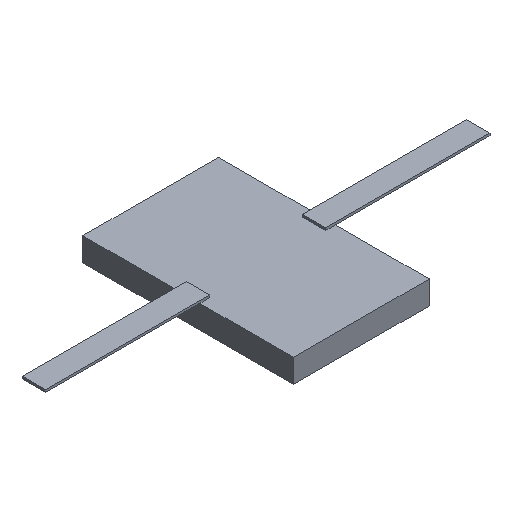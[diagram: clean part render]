
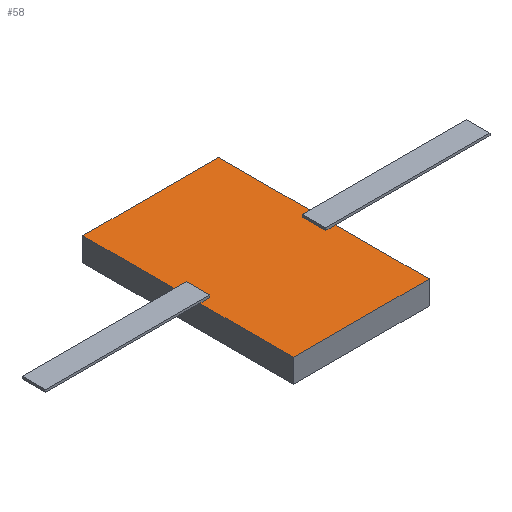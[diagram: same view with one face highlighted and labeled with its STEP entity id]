
A CAD part, isometric view. The second image highlights one B-rep face of the part: STEP entity #58.
In plain terms, the highlighted planar face has unit normal (0, 0, 1).
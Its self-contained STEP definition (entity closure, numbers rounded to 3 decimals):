
#58=ADVANCED_FACE('',(#220),#222,.T.);
#220=FACE_BOUND('',#221,.T.);
#221=EDGE_LOOP('',(#346,#347,#348,#349,#350,#351,#352,#353,#354,#355,#356,#357));
#222=PLANE('',#223);
#223=AXIS2_PLACEMENT_3D('',#224,#225,#226);
#224=CARTESIAN_POINT('',(0.,0.,1.));
#225=DIRECTION('',(0.,0.,1.));
#226=DIRECTION('',(-1.,0.,0.));
#346=ORIENTED_EDGE('',*,*,#434,.F.);
#347=ORIENTED_EDGE('',*,*,#435,.F.);
#348=ORIENTED_EDGE('',*,*,#436,.T.);
#349=ORIENTED_EDGE('',*,*,#437,.T.);
#350=ORIENTED_EDGE('',*,*,#438,.T.);
#351=ORIENTED_EDGE('',*,*,#439,.F.);
#352=ORIENTED_EDGE('',*,*,#440,.F.);
#353=ORIENTED_EDGE('',*,*,#441,.F.);
#354=ORIENTED_EDGE('',*,*,#442,.T.);
#355=ORIENTED_EDGE('',*,*,#443,.T.);
#356=ORIENTED_EDGE('',*,*,#444,.T.);
#357=ORIENTED_EDGE('',*,*,#445,.F.);
#434=EDGE_CURVE('',#478,#479,#480,.T.);
#435=EDGE_CURVE('',#481,#478,#482,.T.);
#436=EDGE_CURVE('',#481,#483,#484,.T.);
#437=EDGE_CURVE('',#483,#485,#486,.T.);
#438=EDGE_CURVE('',#485,#487,#488,.T.);
#439=EDGE_CURVE('',#489,#487,#490,.T.);
#440=EDGE_CURVE('',#491,#489,#492,.T.);
#441=EDGE_CURVE('',#493,#491,#494,.T.);
#442=EDGE_CURVE('',#493,#495,#496,.T.);
#443=EDGE_CURVE('',#495,#497,#498,.T.);
#444=EDGE_CURVE('',#497,#499,#500,.T.);
#445=EDGE_CURVE('',#479,#499,#501,.T.);
#478=VERTEX_POINT('',#550);
#479=VERTEX_POINT('',#551);
#480=LINE('',#552,#553);
#481=VERTEX_POINT('',#555);
#482=LINE('',#556,#557);
#483=VERTEX_POINT('',#559);
#484=LINE('',#560,#561);
#485=VERTEX_POINT('',#563);
#486=LINE('',#564,#565);
#487=VERTEX_POINT('',#567);
#488=LINE('',#568,#569);
#489=VERTEX_POINT('',#571);
#490=LINE('',#572,#573);
#491=VERTEX_POINT('',#575);
#492=LINE('',#576,#577);
#493=VERTEX_POINT('',#579);
#494=LINE('',#580,#581);
#495=VERTEX_POINT('',#583);
#496=LINE('',#584,#585);
#497=VERTEX_POINT('',#587);
#498=LINE('',#588,#589);
#499=VERTEX_POINT('',#591);
#500=LINE('',#592,#593);
#501=LINE('',#595,#596);
#550=CARTESIAN_POINT('',(2.484,0.5,1.));
#551=CARTESIAN_POINT('',(2.484,-0.5,1.));
#552=CARTESIAN_POINT('',(2.484,0.5,1.));
#553=VECTOR('',#554,1.);
#554=DIRECTION('',(0.,-1.,0.));
#555=CARTESIAN_POINT('',(2.9,0.5,1.));
#556=CARTESIAN_POINT('',(2.9,0.5,1.));
#557=VECTOR('',#558,1.);
#558=DIRECTION('',(-1.,0.,0.));
#559=CARTESIAN_POINT('',(2.9,4.5,1.));
#560=CARTESIAN_POINT('',(2.9,0.5,1.));
#561=VECTOR('',#562,1.);
#562=DIRECTION('',(0.,1.,0.));
#563=CARTESIAN_POINT('',(-2.9,4.5,1.));
#564=CARTESIAN_POINT('',(2.9,4.5,1.));
#565=VECTOR('',#566,1.);
#566=DIRECTION('',(-1.,0.,0.));
#567=CARTESIAN_POINT('',(-2.9,0.5,1.));
#568=CARTESIAN_POINT('',(-2.9,4.5,1.));
#569=VECTOR('',#570,1.);
#570=DIRECTION('',(0.,-1.,0.));
#571=CARTESIAN_POINT('',(-2.484,0.5,1.));
#572=CARTESIAN_POINT('',(-2.484,0.5,1.));
#573=VECTOR('',#574,1.);
#574=DIRECTION('',(-1.,0.,0.));
#575=CARTESIAN_POINT('',(-2.484,-0.5,1.));
#576=CARTESIAN_POINT('',(-2.484,-0.5,1.));
#577=VECTOR('',#578,1.);
#578=DIRECTION('',(0.,1.,0.));
#579=CARTESIAN_POINT('',(-2.9,-0.5,1.));
#580=CARTESIAN_POINT('',(-2.9,-0.5,1.));
#581=VECTOR('',#582,1.);
#582=DIRECTION('',(1.,0.,0.));
#583=CARTESIAN_POINT('',(-2.9,-4.5,1.));
#584=CARTESIAN_POINT('',(-2.9,-0.5,1.));
#585=VECTOR('',#586,1.);
#586=DIRECTION('',(0.,-1.,0.));
#587=CARTESIAN_POINT('',(2.9,-4.5,1.));
#588=CARTESIAN_POINT('',(-2.9,-4.5,1.));
#589=VECTOR('',#590,1.);
#590=DIRECTION('',(1.,0.,0.));
#591=CARTESIAN_POINT('',(2.9,-0.5,1.));
#592=CARTESIAN_POINT('',(2.9,-4.5,1.));
#593=VECTOR('',#594,1.);
#594=DIRECTION('',(0.,1.,0.));
#595=CARTESIAN_POINT('',(2.484,-0.5,1.));
#596=VECTOR('',#597,1.);
#597=DIRECTION('',(1.,0.,0.));
